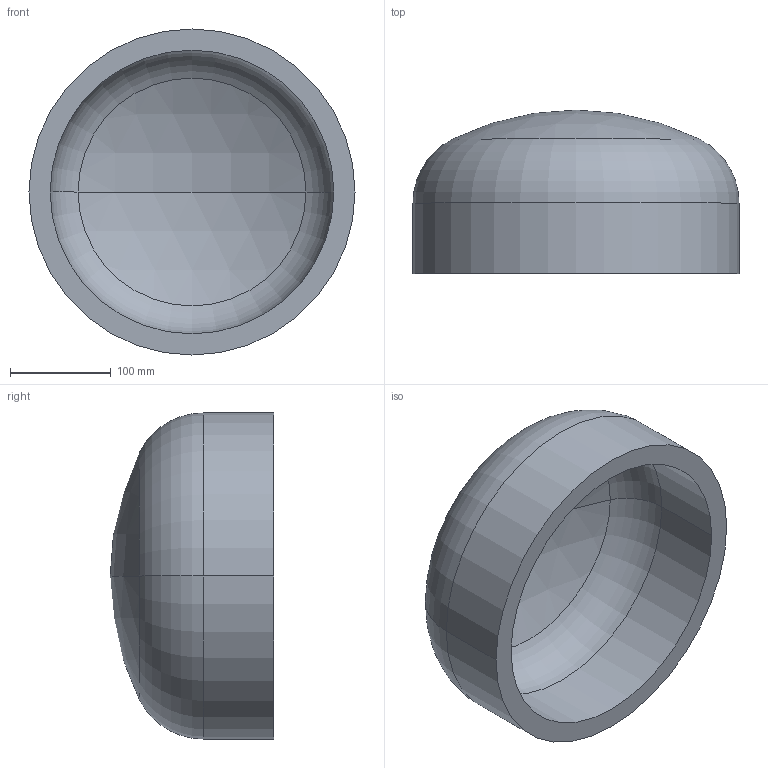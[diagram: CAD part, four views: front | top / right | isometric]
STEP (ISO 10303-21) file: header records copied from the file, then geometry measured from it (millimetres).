
FILE_DESCRIPTION (( 'STEP AP203' ), '1' );
FILE_NAME ('DIN 28013 Korbbogenform_-_Boden DIN 28013 - 323,9 x 70 - I - s=21.step', '2016-07-01T07:44:47', ( '' ), ( '' ), 'SwSTEP 2.0', 'SolidWorks 2013', '' );
FILE_SCHEMA (( 'CONFIG_CONTROL_DESIGN' ));
Length unit declared in the file: millimetre
Products named in the file (1): DIN 28013 Korbbogenform_-_Boden DIN 28013 - 323,9 x 70 - I - s=21
Bounding box: 323.9 x 162.4 x 323.9 mm (x, y, z)
Volume: 3609123.5 mm3; surface area: 364633 mm2
Topology: 1 solids, 1 shells, 13 faces, 24 edges, 14 vertices
Faces by surface type: torus 4, cylinder 4, sphere 4, plane 1
Entity records: 407 total; most frequent: DIRECTION 72, CARTESIAN_POINT 52, ORIENTED_EDGE 48, AXIS2_PLACEMENT_3D 34, EDGE_CURVE 24, CIRCLE 20, VERTEX_POINT 14, EDGE_LOOP 14
